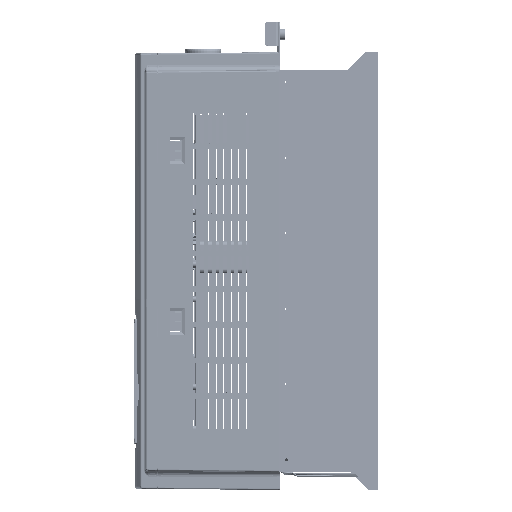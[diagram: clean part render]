
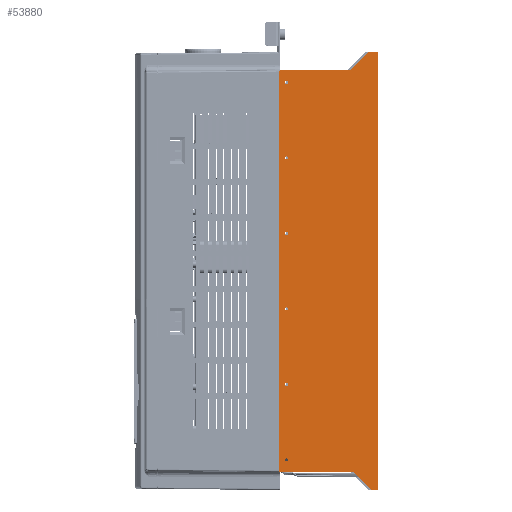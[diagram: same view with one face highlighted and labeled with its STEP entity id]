
A CAD part, left-side view. The second image highlights one B-rep face of the part: STEP entity #53880.
In plain terms, the highlighted planar face has unit normal (-1, -0.009, 0) as drawn and (0, 0, 1) by its records, which use the part's own axes.
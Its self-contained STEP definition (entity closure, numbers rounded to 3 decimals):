
#51054=CARTESIAN_POINT('',(-216.,5.879,131.));
#51055=DIRECTION('',(0.,0.,-1.));
#51056=DIRECTION('',(-1.,0.,0.));
#51057=AXIS2_PLACEMENT_3D('',#51054,#51055,#51056);
#51059=DIRECTION('',(0.707,0.707,0.));
#51060=VECTOR('',#51059,24.213);
#51061=CARTESIAN_POINT('',(-217.061,6.939,131.));
#51062=LINE('',#51061,#51060);
#51063=CARTESIAN_POINT('',(-201.,25.121,131.));
#51064=DIRECTION('',(0.,0.,1.));
#51065=DIRECTION('',(0.707,-0.707,0.));
#51066=AXIS2_PLACEMENT_3D('',#51063,#51064,#51065);
#51068=DIRECTION('',(0.,1.,0.));
#51069=VECTOR('',#51068,71.379);
#51070=CARTESIAN_POINT('',(-199.5,25.121,131.));
#51071=LINE('',#51070,#51069);
#51072=CARTESIAN_POINT('',(-198.,96.5,131.));
#51073=DIRECTION('',(0.,0.,-1.));
#51074=DIRECTION('',(-1.,0.,0.));
#51075=AXIS2_PLACEMENT_3D('',#51072,#51073,#51074);
#51077=DIRECTION('',(1.,0.,0.));
#51078=VECTOR('',#51077,396.);
#51079=CARTESIAN_POINT('',(-198.,98.,131.));
#51080=LINE('',#51079,#51078);
#51081=CARTESIAN_POINT('',(198.,96.5,131.));
#51082=DIRECTION('',(0.,0.,-1.));
#51083=DIRECTION('',(0.,1.,0.));
#51084=AXIS2_PLACEMENT_3D('',#51081,#51082,#51083);
#51086=CARTESIAN_POINT('',(201.,28.121,131.));
#51087=DIRECTION('',(0.,0.,1.));
#51088=DIRECTION('',(-1.,0.,0.));
#51089=AXIS2_PLACEMENT_3D('',#51086,#51087,#51088);
#51091=DIRECTION('',(0.707,-0.707,0.));
#51092=VECTOR('',#51091,24.213);
#51093=CARTESIAN_POINT('',(199.939,27.061,131.));
#51094=LINE('',#51093,#51092);
#51095=CARTESIAN_POINT('',(216.,8.879,131.));
#51096=DIRECTION('',(0.,0.,-1.));
#51097=DIRECTION('',(0.707,0.707,0.));
#51098=AXIS2_PLACEMENT_3D('',#51095,#51096,#51097);
#51100=DIRECTION('',(0.,-1.,0.));
#51101=VECTOR('',#51100,8.879);
#51102=CARTESIAN_POINT('',(217.5,8.879,131.));
#51103=LINE('',#51102,#51101);
#51104=DIRECTION('',(-1.,0.,0.));
#51105=VECTOR('',#51104,435.);
#51106=CARTESIAN_POINT('',(217.5,0.,131.));
#51107=LINE('',#51106,#51105);
#51108=DIRECTION('',(0.,1.,0.));
#51109=VECTOR('',#51108,5.879);
#51110=CARTESIAN_POINT('',(-217.5,0.,131.));
#51111=LINE('',#51110,#51109);
#51112=CARTESIAN_POINT('',(112.5,90.5,131.));
#51113=DIRECTION('',(0.,0.,1.));
#51114=DIRECTION('',(1.,0.,0.));
#51115=AXIS2_PLACEMENT_3D('',#51112,#51113,#51114);
#51117=CARTESIAN_POINT('',(112.5,90.5,131.));
#51118=DIRECTION('',(0.,0.,1.));
#51119=DIRECTION('',(-1.,0.,0.));
#51120=AXIS2_PLACEMENT_3D('',#51117,#51118,#51119);
#51122=CARTESIAN_POINT('',(37.5,90.5,131.));
#51123=DIRECTION('',(0.,0.,1.));
#51124=DIRECTION('',(1.,0.,0.));
#51125=AXIS2_PLACEMENT_3D('',#51122,#51123,#51124);
#51127=CARTESIAN_POINT('',(37.5,90.5,131.));
#51128=DIRECTION('',(0.,0.,1.));
#51129=DIRECTION('',(-1.,0.,0.));
#51130=AXIS2_PLACEMENT_3D('',#51127,#51128,#51129);
#51132=CARTESIAN_POINT('',(-37.5,90.5,131.));
#51133=DIRECTION('',(0.,0.,1.));
#51134=DIRECTION('',(1.,0.,0.));
#51135=AXIS2_PLACEMENT_3D('',#51132,#51133,#51134);
#51137=CARTESIAN_POINT('',(-37.5,90.5,131.));
#51138=DIRECTION('',(0.,0.,1.));
#51139=DIRECTION('',(-1.,0.,0.));
#51140=AXIS2_PLACEMENT_3D('',#51137,#51138,#51139);
#51142=CARTESIAN_POINT('',(-112.5,90.5,131.));
#51143=DIRECTION('',(0.,0.,1.));
#51144=DIRECTION('',(1.,0.,0.));
#51145=AXIS2_PLACEMENT_3D('',#51142,#51143,#51144);
#51147=CARTESIAN_POINT('',(-112.5,90.5,131.));
#51148=DIRECTION('',(0.,0.,1.));
#51149=DIRECTION('',(-1.,0.,0.));
#51150=AXIS2_PLACEMENT_3D('',#51147,#51148,#51149);
#51152=CARTESIAN_POINT('',(-187.5,90.5,131.));
#51153=DIRECTION('',(0.,0.,1.));
#51154=DIRECTION('',(1.,0.,0.));
#51155=AXIS2_PLACEMENT_3D('',#51152,#51153,#51154);
#51157=CARTESIAN_POINT('',(-187.5,90.5,131.));
#51158=DIRECTION('',(0.,0.,1.));
#51159=DIRECTION('',(-1.,0.,0.));
#51160=AXIS2_PLACEMENT_3D('',#51157,#51158,#51159);
#51162=CARTESIAN_POINT('',(187.5,90.5,131.));
#51163=DIRECTION('',(0.,0.,1.));
#51164=DIRECTION('',(1.,0.,0.));
#51165=AXIS2_PLACEMENT_3D('',#51162,#51163,#51164);
#51167=CARTESIAN_POINT('',(187.5,90.5,131.));
#51168=DIRECTION('',(0.,0.,1.));
#51169=DIRECTION('',(-1.,0.,0.));
#51170=AXIS2_PLACEMENT_3D('',#51167,#51168,#51169);
#51184=DIRECTION('',(0.,1.,0.));
#51185=VECTOR('',#51184,68.379);
#51186=CARTESIAN_POINT('',(199.5,28.121,131.));
#51187=LINE('',#51186,#51185);
#52834=CARTESIAN_POINT('',(-217.5,0.,131.));
#52835=VERTEX_POINT('',#52834);
#52836=CARTESIAN_POINT('',(217.5,0.,131.));
#52837=VERTEX_POINT('',#52836);
#53102=CARTESIAN_POINT('',(189.1,90.5,131.));
#53103=CARTESIAN_POINT('',(185.9,90.5,131.));
#53104=VERTEX_POINT('',#53102);
#53105=VERTEX_POINT('',#53103);
#53114=CARTESIAN_POINT('',(-217.5,5.879,131.));
#53115=CARTESIAN_POINT('',(-217.061,6.939,131.));
#53116=VERTEX_POINT('',#53114);
#53117=VERTEX_POINT('',#53115);
#53118=CARTESIAN_POINT('',(-199.939,24.061,131.));
#53119=VERTEX_POINT('',#53118);
#53120=CARTESIAN_POINT('',(-199.5,25.121,131.));
#53121=VERTEX_POINT('',#53120);
#53122=CARTESIAN_POINT('',(-199.5,96.5,131.));
#53123=VERTEX_POINT('',#53122);
#53124=CARTESIAN_POINT('',(-198.,98.,131.));
#53125=VERTEX_POINT('',#53124);
#53126=CARTESIAN_POINT('',(198.,98.,131.));
#53127=VERTEX_POINT('',#53126);
#53128=CARTESIAN_POINT('',(199.5,96.5,131.));
#53129=VERTEX_POINT('',#53128);
#53130=CARTESIAN_POINT('',(199.5,28.121,131.));
#53131=VERTEX_POINT('',#53130);
#53132=CARTESIAN_POINT('',(199.939,27.061,131.));
#53133=VERTEX_POINT('',#53132);
#53134=CARTESIAN_POINT('',(217.061,9.939,131.));
#53135=VERTEX_POINT('',#53134);
#53136=CARTESIAN_POINT('',(217.5,8.879,131.));
#53137=VERTEX_POINT('',#53136);
#53138=CARTESIAN_POINT('',(114.1,90.5,131.));
#53139=CARTESIAN_POINT('',(110.9,90.5,131.));
#53140=VERTEX_POINT('',#53138);
#53141=VERTEX_POINT('',#53139);
#53142=CARTESIAN_POINT('',(39.1,90.5,131.));
#53143=CARTESIAN_POINT('',(35.9,90.5,131.));
#53144=VERTEX_POINT('',#53142);
#53145=VERTEX_POINT('',#53143);
#53146=CARTESIAN_POINT('',(-35.9,90.5,131.));
#53147=CARTESIAN_POINT('',(-39.1,90.5,131.));
#53148=VERTEX_POINT('',#53146);
#53149=VERTEX_POINT('',#53147);
#53150=CARTESIAN_POINT('',(-110.9,90.5,131.));
#53151=CARTESIAN_POINT('',(-114.1,90.5,131.));
#53152=VERTEX_POINT('',#53150);
#53153=VERTEX_POINT('',#53151);
#53154=CARTESIAN_POINT('',(-185.9,90.5,131.));
#53155=CARTESIAN_POINT('',(-189.1,90.5,131.));
#53156=VERTEX_POINT('',#53154);
#53157=VERTEX_POINT('',#53155);
#53817=CARTESIAN_POINT('',(-217.5,0.,131.));
#53818=DIRECTION('',(0.,0.,1.));
#53819=DIRECTION('',(1.,0.,0.));
#53820=AXIS2_PLACEMENT_3D('',#53817,#53818,#53819);
#53821=PLANE('',#53820);
#53822=ORIENTED_EDGE('',*,*,#53754,.T.);
#53823=ORIENTED_EDGE('',*,*,#53770,.T.);
#53824=ORIENTED_EDGE('',*,*,#53782,.T.);
#53825=ORIENTED_EDGE('',*,*,#53796,.T.);
#53826=ORIENTED_EDGE('',*,*,#53808,.T.);
#53828=ORIENTED_EDGE('',*,*,#53827,.T.);
#53830=ORIENTED_EDGE('',*,*,#53829,.T.);
#53832=ORIENTED_EDGE('',*,*,#53831,.F.);
#53834=ORIENTED_EDGE('',*,*,#53833,.T.);
#53836=ORIENTED_EDGE('',*,*,#53835,.T.);
#53837=ORIENTED_EDGE('',*,*,#53669,.T.);
#53838=ORIENTED_EDGE('',*,*,#53656,.T.);
#53839=ORIENTED_EDGE('',*,*,#53471,.T.);
#53841=ORIENTED_EDGE('',*,*,#53840,.T.);
#53842=EDGE_LOOP('',(#53822,#53823,#53824,#53825,#53826,#53828,#53830,#53832,
#53834,#53836,#53837,#53838,#53839,#53841));
#53843=FACE_OUTER_BOUND('',#53842,.F.);
#53845=ORIENTED_EDGE('',*,*,#53844,.T.);
#53847=ORIENTED_EDGE('',*,*,#53846,.T.);
#53848=EDGE_LOOP('',(#53845,#53847));
#53849=FACE_BOUND('',#53848,.F.);
#53851=ORIENTED_EDGE('',*,*,#53850,.T.);
#53853=ORIENTED_EDGE('',*,*,#53852,.T.);
#53854=EDGE_LOOP('',(#53851,#53853));
#53855=FACE_BOUND('',#53854,.F.);
#53857=ORIENTED_EDGE('',*,*,#53856,.T.);
#53859=ORIENTED_EDGE('',*,*,#53858,.T.);
#53860=EDGE_LOOP('',(#53857,#53859));
#53861=FACE_BOUND('',#53860,.F.);
#53863=ORIENTED_EDGE('',*,*,#53862,.T.);
#53865=ORIENTED_EDGE('',*,*,#53864,.T.);
#53866=EDGE_LOOP('',(#53863,#53865));
#53867=FACE_BOUND('',#53866,.F.);
#53869=ORIENTED_EDGE('',*,*,#53868,.T.);
#53871=ORIENTED_EDGE('',*,*,#53870,.T.);
#53872=EDGE_LOOP('',(#53869,#53871));
#53873=FACE_BOUND('',#53872,.F.);
#53875=ORIENTED_EDGE('',*,*,#53874,.T.);
#53877=ORIENTED_EDGE('',*,*,#53876,.T.);
#53878=EDGE_LOOP('',(#53875,#53877));
#53879=FACE_BOUND('',#53878,.F.);
#53880=ADVANCED_FACE('',(#53843,#53849,#53855,#53861,#53867,#53873,#53879),
#53821,.T.);
#51058=CIRCLE('',#51057,1.5);
#51067=CIRCLE('',#51066,1.5);
#51076=CIRCLE('',#51075,1.5);
#51085=CIRCLE('',#51084,1.5);
#51090=CIRCLE('',#51089,1.5);
#51099=CIRCLE('',#51098,1.5);
#51116=CIRCLE('',#51115,1.6);
#51121=CIRCLE('',#51120,1.6);
#51126=CIRCLE('',#51125,1.6);
#51131=CIRCLE('',#51130,1.6);
#51136=CIRCLE('',#51135,1.6);
#51141=CIRCLE('',#51140,1.6);
#51146=CIRCLE('',#51145,1.6);
#51151=CIRCLE('',#51150,1.6);
#51156=CIRCLE('',#51155,1.6);
#51161=CIRCLE('',#51160,1.6);
#51166=CIRCLE('',#51165,1.6);
#51171=CIRCLE('',#51170,1.6);
#53471=EDGE_CURVE('',#52837,#52835,#51107,.T.);
#53656=EDGE_CURVE('',#53137,#52837,#51103,.T.);
#53669=EDGE_CURVE('',#53135,#53137,#51099,.T.);
#53754=EDGE_CURVE('',#53116,#53117,#51058,.T.);
#53770=EDGE_CURVE('',#53117,#53119,#51062,.T.);
#53782=EDGE_CURVE('',#53119,#53121,#51067,.T.);
#53796=EDGE_CURVE('',#53121,#53123,#51071,.T.);
#53808=EDGE_CURVE('',#53123,#53125,#51076,.T.);
#53827=EDGE_CURVE('',#53125,#53127,#51080,.T.);
#53829=EDGE_CURVE('',#53127,#53129,#51085,.T.);
#53831=EDGE_CURVE('',#53131,#53129,#51187,.T.);
#53833=EDGE_CURVE('',#53131,#53133,#51090,.T.);
#53835=EDGE_CURVE('',#53133,#53135,#51094,.T.);
#53840=EDGE_CURVE('',#52835,#53116,#51111,.T.);
#53844=EDGE_CURVE('',#53140,#53141,#51116,.T.);
#53846=EDGE_CURVE('',#53141,#53140,#51121,.T.);
#53850=EDGE_CURVE('',#53144,#53145,#51126,.T.);
#53852=EDGE_CURVE('',#53145,#53144,#51131,.T.);
#53856=EDGE_CURVE('',#53148,#53149,#51136,.T.);
#53858=EDGE_CURVE('',#53149,#53148,#51141,.T.);
#53862=EDGE_CURVE('',#53152,#53153,#51146,.T.);
#53864=EDGE_CURVE('',#53153,#53152,#51151,.T.);
#53868=EDGE_CURVE('',#53156,#53157,#51156,.T.);
#53870=EDGE_CURVE('',#53157,#53156,#51161,.T.);
#53874=EDGE_CURVE('',#53104,#53105,#51166,.T.);
#53876=EDGE_CURVE('',#53105,#53104,#51171,.T.);
